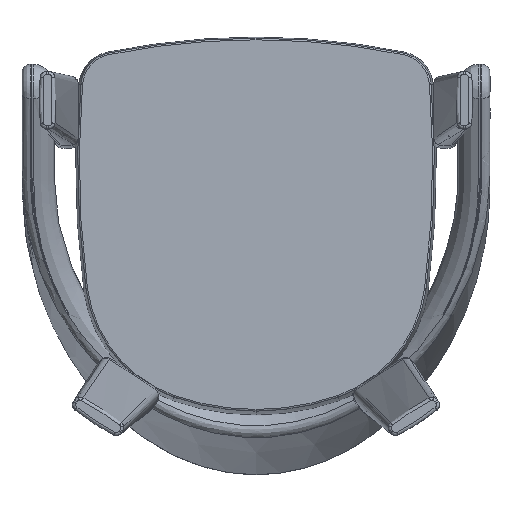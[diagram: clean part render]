
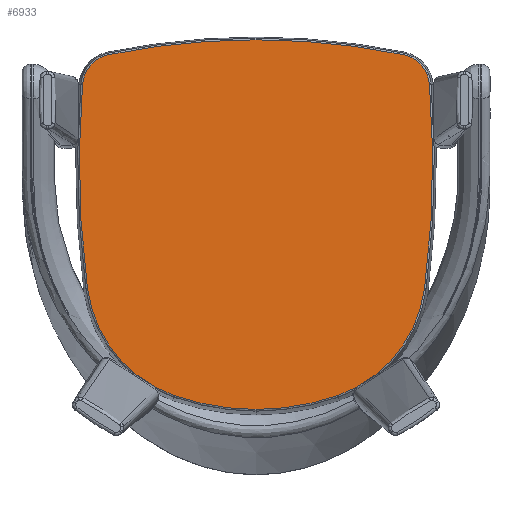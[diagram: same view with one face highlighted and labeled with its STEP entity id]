
A CAD part, front view. The second image highlights one B-rep face of the part: STEP entity #6933.
In plain terms, the highlighted planar face has unit normal (0, -0.999, 0.038) as drawn and (0, -1, 0) by its records, which use the part's own axes.
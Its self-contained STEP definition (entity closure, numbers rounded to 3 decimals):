
#390 = VERTEX_POINT ( 'NONE', #32605 ) ;
#1515 = CARTESIAN_POINT ( 'NONE',  ( 99.431, 0., -283.311 ) ) ;
#1679 = VERTEX_POINT ( 'NONE', #30176 ) ;
#2546 = CARTESIAN_POINT ( 'NONE',  ( 0., 0., -750. ) ) ;
#3865 = EDGE_CURVE ( 'NONE', #34730, #1679, #32465, .T. ) ;
#4020 = ORIENTED_EDGE ( 'NONE', *, *, #20066, .T. ) ;
#4041 = ORIENTED_EDGE ( 'NONE', *, *, #31893, .T. ) ;
#4144 = EDGE_CURVE ( 'NONE', #32778, #8911, #7056, .T. ) ;
#4523 = AXIS2_PLACEMENT_3D ( 'NONE', #35824, #9584, #32889 ) ;
#6527 = CARTESIAN_POINT ( 'NONE',  ( 211.317, 0., 96.08 ) ) ;
#6620 = AXIS2_PLACEMENT_3D ( 'NONE', #22982, #23164, #23350 ) ;
#6933 = ADVANCED_FACE ( 'NONE', ( #30371 ), #36200, .T. ) ;
#7056 = CIRCLE ( 'NONE', #23804, 40.253 ) ;
#7170 = VERTEX_POINT ( 'NONE', #36778 ) ;
#7189 = CIRCLE ( 'NONE', #23308, 160.253 ) ;
#7767 = ORIENTED_EDGE ( 'NONE', *, *, #18433, .T. ) ;
#8305 = AXIS2_PLACEMENT_3D ( 'NONE', #23338, #11683, #11874 ) ;
#8483 = AXIS2_PLACEMENT_3D ( 'NONE', #11823, #23668, #8905 ) ;
#8833 = ORIENTED_EDGE ( 'NONE', *, *, #4144, .T. ) ;
#8905 = DIRECTION ( 'NONE',  ( 0., 0., -1. ) ) ;
#8911 = VERTEX_POINT ( 'NONE', #14775 ) ;
#8920 = AXIS2_PLACEMENT_3D ( 'NONE', #33831, #25278, #9755 ) ;
#9584 = DIRECTION ( 'NONE',  ( 0., -1., 0. ) ) ;
#9743 = AXIS2_PLACEMENT_3D ( 'NONE', #18559, #32908, #15459 ) ;
#9755 = DIRECTION ( 'NONE',  ( 0., 0., -1. ) ) ;
#10632 = CARTESIAN_POINT ( 'NONE',  ( 205.25, 0., -152.968 ) ) ;
#10738 = DIRECTION ( 'NONE',  ( 0., -1., 0. ) ) ;
#11683 = DIRECTION ( 'NONE',  ( 0., -1., 0. ) ) ;
#11823 = CARTESIAN_POINT ( 'NONE',  ( -959.46, 0., 0. ) ) ;
#11874 = DIRECTION ( 'NONE',  ( 0., 0., -1. ) ) ;
#12648 = EDGE_CURVE ( 'NONE', #26300, #37632, #31863, .T. ) ;
#12717 = EDGE_CURVE ( 'NONE', #390, #32347, #17646, .T. ) ;
#14687 = CIRCLE ( 'NONE', #8483, 1174.712 ) ;
#14775 = CARTESIAN_POINT ( 'NONE',  ( 179.212, 0., 132.234 ) ) ;
#15451 = EDGE_CURVE ( 'NONE', #37632, #7170, #33119, .T. ) ;
#15459 = DIRECTION ( 'NONE',  ( 0., 0., -1. ) ) ;
#16770 = DIRECTION ( 'NONE',  ( 0., 0., -1. ) ) ;
#17040 = CARTESIAN_POINT ( 'NONE',  ( -205.25, 0., -152.968 ) ) ;
#17176 = DIRECTION ( 'NONE',  ( 0., 0., -1. ) ) ;
#17646 = CIRCLE ( 'NONE', #8305, 300.253 ) ;
#18433 = EDGE_CURVE ( 'NONE', #1679, #390, #38264, .T. ) ;
#18559 = CARTESIAN_POINT ( 'NONE',  ( 0., 0., 0. ) ) ;
#18893 = CARTESIAN_POINT ( 'NONE',  ( 171.199, 0., 92.788 ) ) ;
#20066 = EDGE_CURVE ( 'NONE', #8911, #26300, #22142, .T. ) ;
#20235 = CARTESIAN_POINT ( 'NONE',  ( -179.212, 0., 132.234 ) ) ;
#20733 = AXIS2_PLACEMENT_3D ( 'NONE', #2546, #25877, #22971 ) ;
#21710 = ORIENTED_EDGE ( 'NONE', *, *, #29326, .T. ) ;
#22142 = CIRCLE ( 'NONE', #25866, 900.253 ) ;
#22186 = DIRECTION ( 'NONE',  ( 0., -1., 0. ) ) ;
#22971 = DIRECTION ( 'NONE',  ( 0., 0., -1. ) ) ;
#22982 = CARTESIAN_POINT ( 'NONE',  ( 959.46, 0., 0. ) ) ;
#23164 = DIRECTION ( 'NONE',  ( 0., -1., 0. ) ) ;
#23308 = AXIS2_PLACEMENT_3D ( 'NONE', #28226, #10738, #16770 ) ;
#23338 = CARTESIAN_POINT ( 'NONE',  ( 0., 0., 0. ) ) ;
#23349 = EDGE_CURVE ( 'NONE', #7170, #34730, #26474, .T. ) ;
#23350 = DIRECTION ( 'NONE',  ( 0., 0., -1. ) ) ;
#23668 = DIRECTION ( 'NONE',  ( 0., -1., 0. ) ) ;
#23804 = AXIS2_PLACEMENT_3D ( 'NONE', #18893, #22186, #30732 ) ;
#25278 = DIRECTION ( 'NONE',  ( 0., -1., 0. ) ) ;
#25426 = CARTESIAN_POINT ( 'NONE',  ( 0., 0., -750. ) ) ;
#25866 = AXIS2_PLACEMENT_3D ( 'NONE', #25426, #34364, #27579 ) ;
#25877 = DIRECTION ( 'NONE',  ( 0., -1., 0. ) ) ;
#26300 = VERTEX_POINT ( 'NONE', #32779 ) ;
#26467 = VERTEX_POINT ( 'NONE', #10632 ) ;
#26474 = CIRCLE ( 'NONE', #6620, 1174.712 ) ;
#27357 = EDGE_LOOP ( 'NONE', ( #21710, #8833, #4020, #28639, #37287, #29051, #27370, #7767, #34479, #4041 ) ) ;
#27370 = ORIENTED_EDGE ( 'NONE', *, *, #3865, .T. ) ;
#27579 = DIRECTION ( 'NONE',  ( 0., 0., -1. ) ) ;
#28226 = CARTESIAN_POINT ( 'NONE',  ( 46.362, 0., -132.1 ) ) ;
#28639 = ORIENTED_EDGE ( 'NONE', *, *, #12648, .T. ) ;
#29051 = ORIENTED_EDGE ( 'NONE', *, *, #23349, .T. ) ;
#29199 = DIRECTION ( 'NONE',  ( 0., -1., 0. ) ) ;
#29326 = EDGE_CURVE ( 'NONE', #26467, #32778, #14687, .T. ) ;
#29591 = CARTESIAN_POINT ( 'NONE',  ( -171.199, 0., 92.788 ) ) ;
#30176 = CARTESIAN_POINT ( 'NONE',  ( -99.431, 0., -283.311 ) ) ;
#30371 = FACE_OUTER_BOUND ( 'NONE', #27357, .T. ) ;
#30732 = DIRECTION ( 'NONE',  ( 0., 0., -1. ) ) ;
#31863 = CIRCLE ( 'NONE', #20733, 900.253 ) ;
#31893 = EDGE_CURVE ( 'NONE', #32347, #26467, #7189, .T. ) ;
#32347 = VERTEX_POINT ( 'NONE', #1515 ) ;
#32465 = CIRCLE ( 'NONE', #8920, 160.253 ) ;
#32605 = CARTESIAN_POINT ( 'NONE',  ( 0., 0., -300.253 ) ) ;
#32778 = VERTEX_POINT ( 'NONE', #6527 ) ;
#32779 = CARTESIAN_POINT ( 'NONE',  ( 0., 0., 150.253 ) ) ;
#32889 = DIRECTION ( 'NONE',  ( 0., 0., -1. ) ) ;
#32908 = DIRECTION ( 'NONE',  ( 0., -1., 0. ) ) ;
#33119 = CIRCLE ( 'NONE', #36246, 40.253 ) ;
#33831 = CARTESIAN_POINT ( 'NONE',  ( -46.362, 0., -132.1 ) ) ;
#34364 = DIRECTION ( 'NONE',  ( 0., -1., 0. ) ) ;
#34479 = ORIENTED_EDGE ( 'NONE', *, *, #12717, .T. ) ;
#34730 = VERTEX_POINT ( 'NONE', #17040 ) ;
#35824 = CARTESIAN_POINT ( 'NONE',  ( 0., 0., 142. ) ) ;
#36200 = PLANE ( 'NONE',  #4523 ) ;
#36246 = AXIS2_PLACEMENT_3D ( 'NONE', #29591, #29199, #17176 ) ;
#36778 = CARTESIAN_POINT ( 'NONE',  ( -211.317, 0., 96.08 ) ) ;
#37287 = ORIENTED_EDGE ( 'NONE', *, *, #15451, .T. ) ;
#37632 = VERTEX_POINT ( 'NONE', #20235 ) ;
#38264 = CIRCLE ( 'NONE', #9743, 300.253 ) ;
